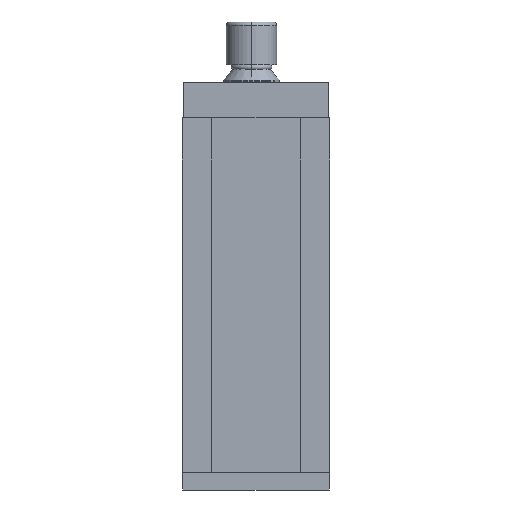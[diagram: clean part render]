
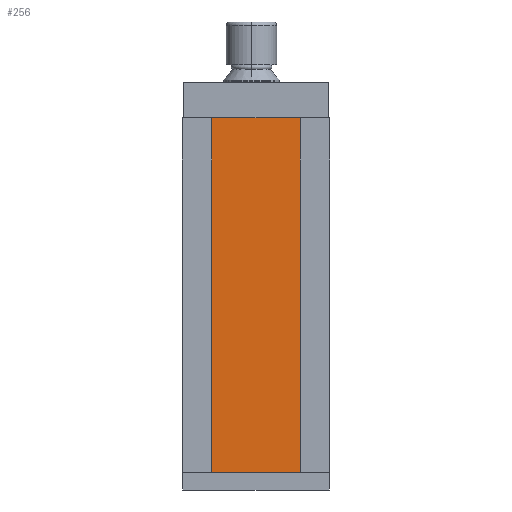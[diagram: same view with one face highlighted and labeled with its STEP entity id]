
A CAD part, front view. The second image highlights one B-rep face of the part: STEP entity #256.
In plain terms, the highlighted planar face has unit normal (0, -1, 0).
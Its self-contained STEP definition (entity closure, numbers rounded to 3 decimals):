
#29 = VERTEX_POINT ( 'NONE', #548 ) ;
#49 = EDGE_CURVE ( 'NONE', #29, #143, #615, .T. ) ;
#83 = ORIENTED_EDGE ( 'NONE', *, *, #49, .F. ) ;
#124 = VERTEX_POINT ( 'NONE', #915 ) ;
#143 = VERTEX_POINT ( 'NONE', #1046 ) ;
#159 = EDGE_CURVE ( 'NONE', #143, #124, #1156, .T. ) ;
#189 = ORIENTED_EDGE ( 'NONE', *, *, #159, .F. ) ;
#237 = EDGE_LOOP ( 'NONE', ( #189, #83, #3929, #3459 ) ) ;
#256 = ADVANCED_FACE ( 'NONE', ( #1832 ), #1833, .F. ) ;
#548 = CARTESIAN_POINT ( 'NONE',  ( 16.155, -10.8, -60. ) ) ;
#615 = LINE ( 'NONE', #616, #617 ) ;
#616 = CARTESIAN_POINT ( 'NONE',  ( 16.155, -10.8, -60. ) ) ;
#617 = VECTOR ( 'NONE', #618, 1000. ) ;
#618 = DIRECTION ( 'NONE',  ( -1., 0., 0. ) ) ;
#915 = CARTESIAN_POINT ( 'NONE',  ( -16.155, -10.8, 60. ) ) ;
#1046 = CARTESIAN_POINT ( 'NONE',  ( -16.155, -10.8, -60. ) ) ;
#1156 = LINE ( 'NONE', #1157, #1158 ) ;
#1157 = CARTESIAN_POINT ( 'NONE',  ( -16.155, -10.8, -60. ) ) ;
#1158 = VECTOR ( 'NONE', #1159, 1000. ) ;
#1159 = DIRECTION ( 'NONE',  ( 0., 0., 1. ) ) ;
#1832 = FACE_OUTER_BOUND ( 'NONE', #237, .T. ) ;
#1833 = PLANE ( 'NONE',  #1834 ) ;
#1834 = AXIS2_PLACEMENT_3D ( 'NONE', #1835, #1836, #1837 ) ;
#1835 = CARTESIAN_POINT ( 'NONE',  ( 16.155, -10.8, -60. ) ) ;
#1836 = DIRECTION ( 'NONE',  ( 0., 1., 0. ) ) ;
#1837 = DIRECTION ( 'NONE',  ( 0., 0., 1. ) ) ;
#1925 = LINE ( 'NONE', #1927, #1928 ) ;
#1927 = CARTESIAN_POINT ( 'NONE',  ( 16.155, -10.8, 60. ) ) ;
#1928 = VECTOR ( 'NONE', #1929, 1000. ) ;
#1929 = DIRECTION ( 'NONE',  ( -1., 0., 0. ) ) ;
#2461 = CARTESIAN_POINT ( 'NONE',  ( 16.155, -10.8, 60. ) ) ;
#2621 = LINE ( 'NONE', #2622, #2623 ) ;
#2622 = CARTESIAN_POINT ( 'NONE',  ( 16.155, -10.8, -60. ) ) ;
#2623 = VECTOR ( 'NONE', #2624, 1000. ) ;
#2624 = DIRECTION ( 'NONE',  ( 0., 0., 1. ) ) ;
#3089 = EDGE_CURVE ( 'NONE', #3827, #124, #1925, .T. ) ;
#3459 = ORIENTED_EDGE ( 'NONE', *, *, #3089, .T. ) ;
#3827 = VERTEX_POINT ( 'NONE', #2461 ) ;
#3866 = EDGE_CURVE ( 'NONE', #29, #3827, #2621, .T. ) ;
#3929 = ORIENTED_EDGE ( 'NONE', *, *, #3866, .T. ) ;
